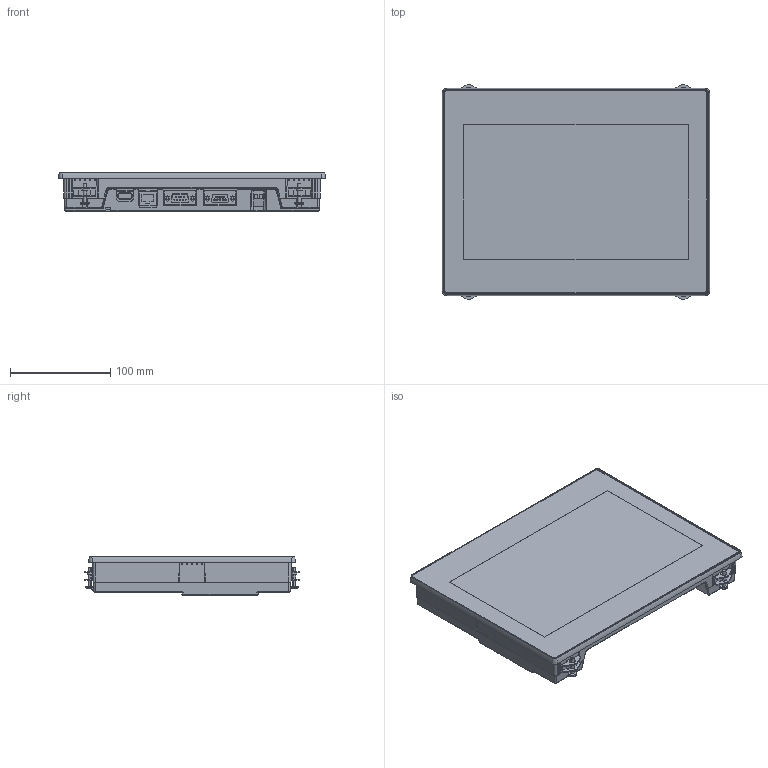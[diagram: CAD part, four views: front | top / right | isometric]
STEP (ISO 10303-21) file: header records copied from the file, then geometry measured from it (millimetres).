
FILE_DESCRIPTION((''),'2;1');
FILE_NAME('TS1100SI_3D-DATA','2018-07-24T',('oda'),('Hakko Electronics Co.,Ltd.'),'PRO/ENGINEER BY PARAMETRIC TECHNOLOGY CORPORATION, 2011490','PRO/ENGINEER BY PARAMETRIC TECHNOLOGY CORPORATION, 2011490','');
FILE_SCHEMA(('CONFIG_CONTROL_DESIGN'));
Length unit declared in the file: millimetre
Products named in the file (1): TS1100SI_3D-DATA
Bounding box: 266.8 x 214.8 x 38 mm (x, y, z)
Volume: 1705470.8 mm3; surface area: 159521.7 mm2
Topology: 1 solids, 1 shells, 1276 faces, 3313 edges, 2120 vertices
Faces by surface type: plane 857, cylinder 292, bspline 47, torus 40, cone 38, sphere 2
Entity records: 45083 total; most frequent: CARTESIAN_POINT 14180, ORIENTED_EDGE 6626, DIRECTION 5973, EDGE_CURVE 3313, VECTOR 2491, LINE 2491, VERTEX_POINT 2120, AXIS2_PLACEMENT_3D 1741
